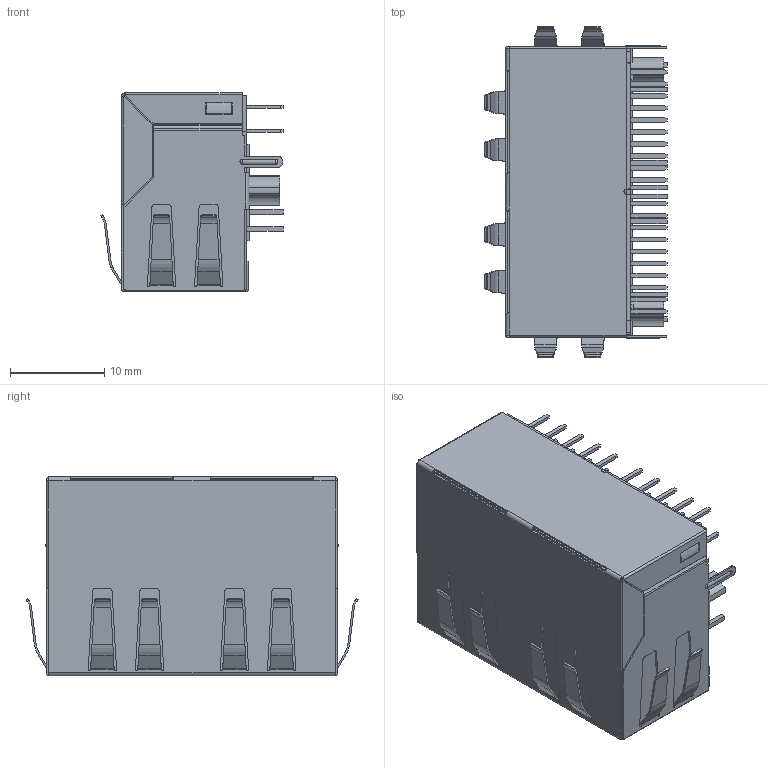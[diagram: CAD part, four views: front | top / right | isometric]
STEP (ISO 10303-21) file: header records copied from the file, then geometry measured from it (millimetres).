
FILE_DESCRIPTION((''),'2;1');
FILE_NAME('DGKYD112Q066DA2A1D','2022-10-09T17:23:45',('Administrator'),(''),'CREO PARAMETRIC BY PTC INC, 2019010','CREO PARAMETRIC BY PTC INC, 2019010','');
FILE_SCHEMA(('CONFIG_CONTROL_DESIGN'));
Products named in the file (1): DGKYD112Q066DA2A1D
Bounding box: 19.34 x 35.2 x 21.2 mm (x, y, z)
Volume: 3546.3 mm3; surface area: 12676.3 mm2
Topology: 1 solids, 2 shells, 2568 faces, 7653 edges, 4907 vertices
Faces by surface type: plane 1956, cylinder 540, bspline 62, sphere 10
Entity records: 88362 total; most frequent: CARTESIAN_POINT 18700, ORIENTED_EDGE 15240, DIRECTION 13671, EDGE_CURVE 7653, VECTOR 6269, LINE 6269, VERTEX_POINT 4907, AXIS2_PLACEMENT_3D 3701
